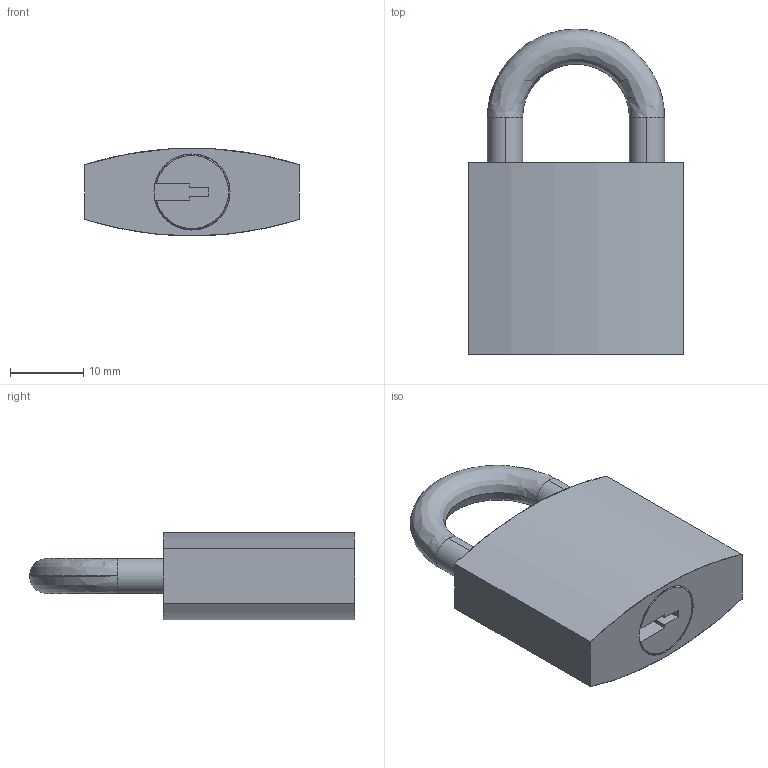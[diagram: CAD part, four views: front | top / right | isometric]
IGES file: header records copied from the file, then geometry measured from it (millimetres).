
Start section: SolidWorks IGES file using analytic representation for surfaces
Bounding box: 29.3 x 44.49 x 12 mm (x, y, z)
Surface area: 3245.2 mm2 (no closed solid volume)
Topology: 0 solids, 0 shells, 25 faces, 279 edges, 279 vertices
Faces by surface type: bspline 15, revolution 10
